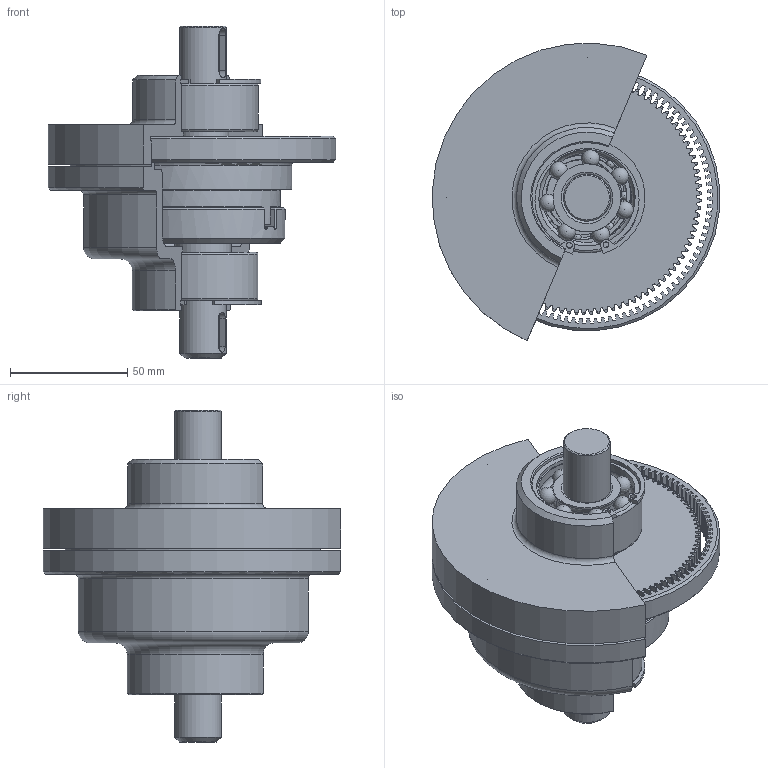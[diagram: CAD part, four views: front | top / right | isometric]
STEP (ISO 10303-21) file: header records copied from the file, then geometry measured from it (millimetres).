
FILE_DESCRIPTION(/* description */ (''),/* implementation_level */ '2;1');
FILE_NAME(/* name */ 'C:\Projekti\Standardni elementi\Sklopke\Oldham2.stp',/* time_stamp */ '2021-06-09T17:39:54+02:00',/* author */ ('Janez'),/* organization */ (''),/* preprocessor_version */ 'ST-DEVELOPER v16.13',/* originating_system */ 'Autodesk Inventor 2018',/* authorisation */ '');
FILE_SCHEMA (('AUTOMOTIVE_DESIGN { 1 0 10303 214 3 1 1 }'));
Length unit declared in the file: millimetre
Products named in the file (11): Oldham2; zobnikobroč11_1OS; DIN 625 SKF - SKF 61806; zobnik100-1,5OS; gred1; Oldham_križna plošča1; obroč za nz; OHdrugi del; oldhamsorednja plošča; DIN 628 SKF - SKF E2.3204 A-2Z; DIN 472 - 47x1,75
Assembly tree (12 placements, depth 2):
  Oldham2
    zobnikobroč11_1OS
    DIN 625 SKF - SKF 61806
    DIN 628 SKF - SKF E2.3204 A-2Z  x2
    zobnik100-1,5OS
    gred1
    Oldham_križna plošča1
    obroč za nz
    OHdrugi del
    oldhamsorednja plošča
    DIN 472 - 47x1,75  x2
Bounding box: 122.47 x 126.79 x 141.5 mm (x, y, z)
Volume: 451191.5 mm3; surface area: 159935.2 mm2
Topology: 42 solids, 42 shells, 1613 faces, 4747 edges, 3143 vertices
Faces by surface type: cylinder 1106, cone 232, plane 119, torus 106, sphere 43, bspline 7
Full cylindrical faces by diameter (mm): 2.5 x4, 4.134 x2, 5.5 x2, 10 x2, 20 x4, 22 x1, 24 x1, 25.94 x2, 28.964 x4, 30 x2, 33.84 x2, 34 x1, 38 x1, 38.036 x2, 38.16 x2, 41.06 x4, 42 x3, 47 x3, 70 x2, 80 x1, 113.4 x1
Entity records: 54189 total; most frequent: DIRECTION 10593, CARTESIAN_POINT 10221, ORIENTED_EDGE 8872, AXIS2_PLACEMENT_3D 4675, EDGE_CURVE 4408, CIRCLE 3045, VERTEX_POINT 2953, EDGE_LOOP 1659
